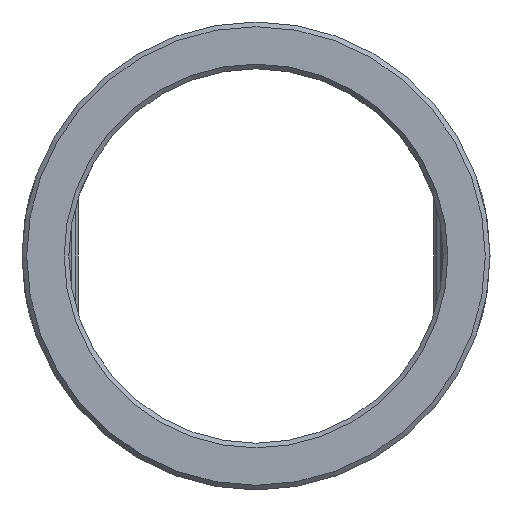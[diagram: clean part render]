
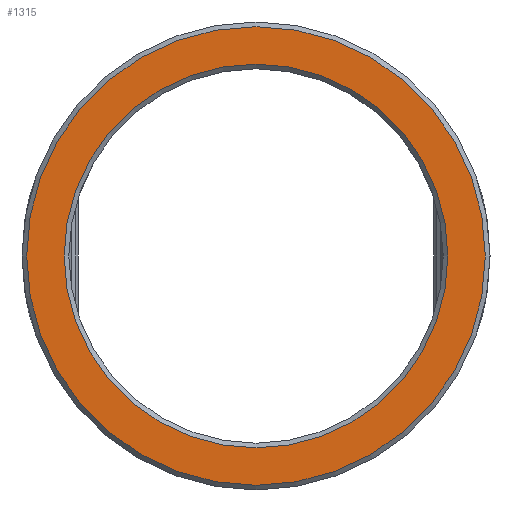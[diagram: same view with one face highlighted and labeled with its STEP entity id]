
A CAD part, left-side view. The second image highlights one B-rep face of the part: STEP entity #1315.
In plain terms, the highlighted planar face has unit normal (-1, 0, 0).
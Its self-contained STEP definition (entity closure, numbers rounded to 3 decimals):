
#1284=CARTESIAN_POINT('',(-8.875,4.1,0.));
#1285=VERTEX_POINT('',#1284);
#1286=CARTESIAN_POINT('',(-8.875,0.0,0.0));
#1287=DIRECTION('',(-1.0,0.0,0.0));
#1288=DIRECTION('',(0.0,-1.0,0.0));
#1289=AXIS2_PLACEMENT_3D('',#1286,#1287,#1288);
#1290=CIRCLE('',#1289,4.1);
#1291=EDGE_CURVE('',#1285,#1285,#1290,.T.);
#1296=CARTESIAN_POINT('',(-8.875,4.5,0.0));
#1297=DIRECTION('',(-1.0,0.0,0.0));
#1298=DIRECTION('',(0.0,0.0,1.0));
#1299=AXIS2_PLACEMENT_3D('',#1296,#1297,#1298);
#1300=PLANE('',#1299);
#1301=CARTESIAN_POINT('',(-8.875,4.9,0.));
#1302=VERTEX_POINT('',#1301);
#1303=CARTESIAN_POINT('',(-8.875,0.0,0.0));
#1304=DIRECTION('',(1.0,0.0,0.0));
#1305=DIRECTION('',(0.0,-1.0,0.0));
#1306=AXIS2_PLACEMENT_3D('',#1303,#1304,#1305);
#1307=CIRCLE('',#1306,4.9);
#1308=EDGE_CURVE('',#1302,#1302,#1307,.T.);
#1309=ORIENTED_EDGE('',*,*,#1308,.F.);
#1310=EDGE_LOOP('',(#1309));
#1311=FACE_OUTER_BOUND('',#1310,.T.);
#1312=ORIENTED_EDGE('',*,*,#1291,.F.);
#1313=EDGE_LOOP('',(#1312));
#1314=FACE_BOUND('',#1313,.T.);
#1315=ADVANCED_FACE('',(#1311,#1314),#1300,.T.);
